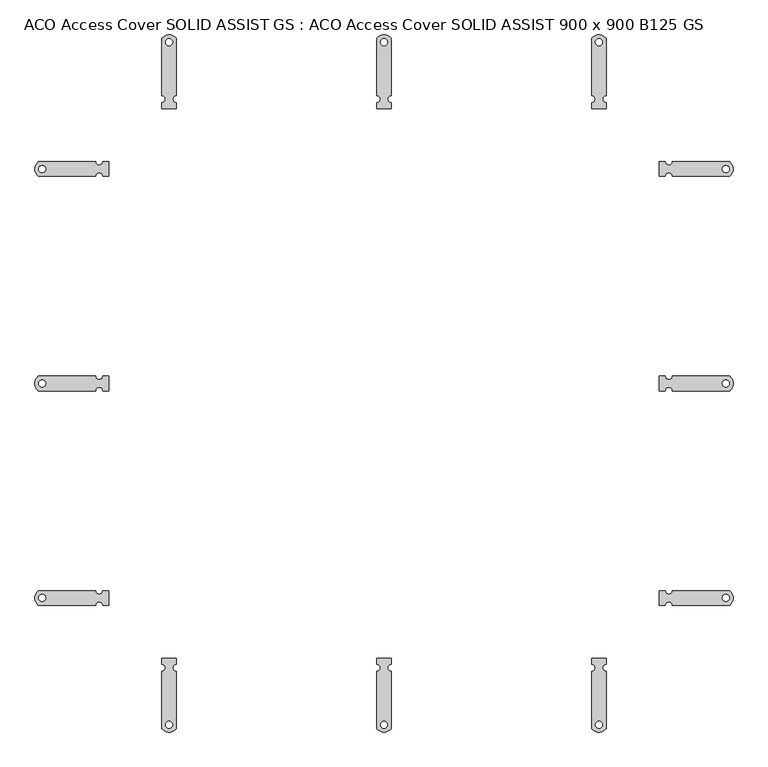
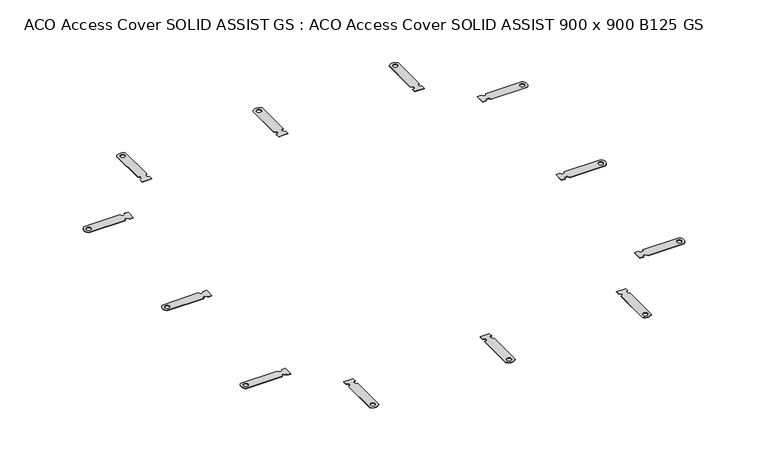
"""IFC4 building model written with IfcOpenShell, lengths in millimetres: proxy geometry, ACO Access Cover SOLID ASSIST GS : ACO Access Cover SOLID ASSIST 900 x 900 B125 GS."""

from ifc_helpers import new_model, si_unit, point, frame, frame_2d, origin, place, context, project, spatial, polyline, circle_curve, trimmed, segment, composite_curve, outline, extrude, source, transform, mapped, element, save


def aco_access_cover_solid_assist_gs_aco_access_cover_solid_a4386469(model_context):
    return source(origin(), model_context, "Body", "SweptSolid", [
        extrude(outline(composite_curve([segment(polyline([(-12.5, 492.5), (-12.5, 590.4874922)]), True, "CONTINUOUS"), segment(trimmed(circle_curve(frame_2d((0.0, 580.5)), 16.0), [point((-12.5, 590.4874922))], [point((12.5, 590.4874922))], False, "CARTESIAN"), True, "CONTINUOUS"), segment(polyline([(12.5, 590.4874922), (12.5, 492.5)]), True, "CONTINUOUS"), segment(trimmed(circle_curve(frame_2d((12.5, 486.5)), 6.0), [point((12.5, 492.5))], [point((12.5, 480.5))], True, "CARTESIAN"), True, "CONTINUOUS"), segment(polyline([(12.5, 480.5), (12.5, 470.5), (-12.5, 470.5), (-12.5, 480.5)]), True, "CONTINUOUS"), segment(trimmed(circle_curve(frame_2d((-12.5, 486.5)), 6.0), [point((-12.5, 480.5))], [point((-12.5, 492.5))], True, "CARTESIAN"), True, "CONTINUOUS")], self_intersect=False), holes=[composite_curve([segment(trimmed(circle_curve(frame_2d((0.0, 584.0)), 6.0), [point((-6.0, 584.0))], [point((6.0, 584.0))], True, "CARTESIAN"), True, "CONTINUOUS"), segment(trimmed(circle_curve(frame_2d((0.0, 584.0)), 6.0), [point((6.0, 584.0))], [point((-6.0, 584.0))], True, "CARTESIAN"), True, "CONTINUOUS")], self_intersect=False)]), frame((0.0, 0.0, -41.0), z_axis=(0.0, 0.0, 1.0), x_axis=(1.0, 0.0, 0.0)), (0.0, 0.0, 1.0), 1.0),
        extrude(outline(composite_curve([segment(trimmed(circle_curve(frame_2d((-12.5, -486.5)), 6.0), [point((-12.5, -492.5))], [point((-12.5, -480.5))], True, "CARTESIAN"), True, "CONTINUOUS"), segment(polyline([(-12.5, -480.5), (-12.5, -470.5), (12.5, -470.5), (12.5, -480.5)]), True, "CONTINUOUS"), segment(trimmed(circle_curve(frame_2d((12.5, -486.5)), 6.0), [point((12.5, -480.5))], [point((12.5, -492.5))], True, "CARTESIAN"), True, "CONTINUOUS"), segment(polyline([(12.5, -492.5), (12.5, -590.4874922)]), True, "CONTINUOUS"), segment(trimmed(circle_curve(frame_2d((0.0, -580.5)), 16.0), [point((12.5, -590.4874922))], [point((-12.5, -590.4874922))], False, "CARTESIAN"), True, "CONTINUOUS"), segment(polyline([(-12.5, -590.4874922), (-12.5, -492.5)]), True, "CONTINUOUS")], self_intersect=False), holes=[composite_curve([segment(trimmed(circle_curve(frame_2d((0.0, -584.0)), 6.0), [point((-6.0, -584.0))], [point((6.0, -584.0))], True, "CARTESIAN"), True, "CONTINUOUS"), segment(trimmed(circle_curve(frame_2d((0.0, -584.0)), 6.0), [point((6.0, -584.0))], [point((-6.0, -584.0))], True, "CARTESIAN"), True, "CONTINUOUS")], self_intersect=False)]), frame((0.0, 0.0, -41.0), z_axis=(0.0, 0.0, 1.0), x_axis=(1.0, 0.0, 0.0)), (0.0, 0.0, 1.0), 1.0),
        extrude(outline(composite_curve([segment(polyline([(471.0, 12.5), (481.0, 12.5)]), True, "CONTINUOUS"), segment(trimmed(circle_curve(frame_2d((487.0, 12.5)), 6.0), [point((481.0, 12.5))], [point((493.0, 12.5))], True, "CARTESIAN"), True, "CONTINUOUS"), segment(polyline([(493.0, 12.5), (590.9874922, 12.5)]), True, "CONTINUOUS"), segment(trimmed(circle_curve(frame_2d((581.0, 0.0)), 16.0), [point((590.9874922, 12.5))], [point((590.9874922, -12.5))], False, "CARTESIAN"), True, "CONTINUOUS"), segment(polyline([(590.9874922, -12.5), (493.0, -12.5)]), True, "CONTINUOUS"), segment(trimmed(circle_curve(frame_2d((487.0, -12.5)), 6.0), [point((493.0, -12.5))], [point((481.0, -12.5))], True, "CARTESIAN"), True, "CONTINUOUS"), segment(polyline([(481.0, -12.5), (471.0, -12.5), (471.0, 12.5)]), True, "CONTINUOUS")], self_intersect=False), holes=[composite_curve([segment(trimmed(circle_curve(frame_2d((584.5, 0.0)), 6.0), [point((578.5, 0.0))], [point((590.5, 0.0))], True, "CARTESIAN"), True, "CONTINUOUS"), segment(trimmed(circle_curve(frame_2d((584.5, 0.0)), 6.0), [point((590.5, 0.0))], [point((578.5, 0.0))], True, "CARTESIAN"), True, "CONTINUOUS")], self_intersect=False)]), frame((0.0, 0.0, -41.0), z_axis=(0.0, 0.0, 1.0), x_axis=(1.0, 0.0, 0.0)), (0.0, 0.0, 1.0), 1.0),
        extrude(outline(composite_curve([segment(polyline([(-471.0, 12.5), (-471.0, -12.5), (-481.0, -12.5)]), True, "CONTINUOUS"), segment(trimmed(circle_curve(frame_2d((-487.0, -12.5)), 6.0), [point((-481.0, -12.5))], [point((-493.0, -12.5))], True, "CARTESIAN"), True, "CONTINUOUS"), segment(polyline([(-493.0, -12.5), (-590.9874922, -12.5)]), True, "CONTINUOUS"), segment(trimmed(circle_curve(frame_2d((-581.0, 0.0)), 16.0), [point((-590.9874922, -12.5))], [point((-590.9874922, 12.5))], False, "CARTESIAN"), True, "CONTINUOUS"), segment(polyline([(-590.9874922, 12.5), (-493.0, 12.5)]), True, "CONTINUOUS"), segment(trimmed(circle_curve(frame_2d((-487.0, 12.5)), 6.0), [point((-493.0, 12.5))], [point((-481.0, 12.5))], True, "CARTESIAN"), True, "CONTINUOUS"), segment(polyline([(-481.0, 12.5), (-471.0, 12.5)]), True, "CONTINUOUS")], self_intersect=False), holes=[composite_curve([segment(trimmed(circle_curve(frame_2d((-584.5, 0.0)), 6.0), [point((-590.5, 0.0))], [point((-578.5, 0.0))], True, "CARTESIAN"), True, "CONTINUOUS"), segment(trimmed(circle_curve(frame_2d((-584.5, 0.0)), 6.0), [point((-578.5, 0.0))], [point((-590.5, 0.0))], True, "CARTESIAN"), True, "CONTINUOUS")], self_intersect=False)]), frame((0.0, 0.0, -41.0), z_axis=(0.0, 0.0, 1.0), x_axis=(1.0, 0.0, 0.0)), (0.0, 0.0, 1.0), 1.0),
        extrude(outline(composite_curve([segment(polyline([(471.0, 379.5), (481.0, 379.5)]), True, "CONTINUOUS"), segment(trimmed(circle_curve(frame_2d((487.0052893, 379.5)), 6.0052893), [point((481.0, 379.5))], [point((493.0105785, 379.5))], True, "CARTESIAN"), True, "CONTINUOUS"), segment(polyline([(493.0105785, 379.5), (590.9771339, 379.5)]), True, "CONTINUOUS"), segment(trimmed(circle_curve(frame_2d((581.0156688, 367.0)), 15.9837663), [point((590.9771339, 379.5))], [point((590.9771339, 354.5))], False, "CARTESIAN"), True, "CONTINUOUS"), segment(polyline([(590.9771339, 354.5), (493.023995, 354.5)]), True, "CONTINUOUS"), segment(trimmed(circle_curve(frame_2d((487.0319344, 354.5)), 5.9920606), [point((493.023995, 354.5))], [point((481.0398738, 354.5))], True, "CARTESIAN"), True, "CONTINUOUS"), segment(polyline([(481.0398738, 354.5), (471.0, 354.5), (471.0, 379.5)]), True, "CONTINUOUS")], self_intersect=False), holes=[composite_curve([segment(trimmed(circle_curve(frame_2d((584.5, 367.0)), 6.0), [point((578.5, 367.0))], [point((590.5, 367.0))], True, "CARTESIAN"), True, "CONTINUOUS"), segment(trimmed(circle_curve(frame_2d((584.5, 367.0)), 6.0), [point((590.5, 367.0))], [point((578.5, 367.0))], True, "CARTESIAN"), True, "CONTINUOUS")], self_intersect=False)]), frame((0.0, 0.0, -41.0), z_axis=(0.0, 0.0, 1.0), x_axis=(1.0, 0.0, 0.0)), (0.0, 0.0, 1.0), 1.0),
        extrude(outline(composite_curve([segment(polyline([(355.0, 470.5), (355.0, 480.5)]), True, "CONTINUOUS"), segment(trimmed(circle_curve(frame_2d((355.0, 486.5052893)), 6.0052893), [point((355.0, 480.5))], [point((355.0, 492.5105785))], True, "CARTESIAN"), True, "CONTINUOUS"), segment(polyline([(355.0, 492.5105785), (355.0, 590.4771339)]), True, "CONTINUOUS"), segment(trimmed(circle_curve(frame_2d((367.5, 580.5156688)), 15.9837663), [point((355.0, 590.4771339))], [point((380.0, 590.4771339))], False, "CARTESIAN"), True, "CONTINUOUS"), segment(polyline([(380.0, 590.4771339), (380.0, 492.523995)]), True, "CONTINUOUS"), segment(trimmed(circle_curve(frame_2d((380.0, 486.5319344)), 5.9920606), [point((380.0, 492.523995))], [point((380.0, 480.5398738))], True, "CARTESIAN"), True, "CONTINUOUS"), segment(polyline([(380.0, 480.5398738), (380.0, 470.5), (355.0, 470.5)]), True, "CONTINUOUS")], self_intersect=False), holes=[composite_curve([segment(trimmed(circle_curve(frame_2d((367.5, 584.0)), 6.0), [point((361.5, 584.0))], [point((373.5, 584.0))], True, "CARTESIAN"), True, "CONTINUOUS"), segment(trimmed(circle_curve(frame_2d((367.5, 584.0)), 6.0), [point((373.5, 584.0))], [point((361.5, 584.0))], True, "CARTESIAN"), True, "CONTINUOUS")], self_intersect=False)]), frame((0.0, 0.0, -41.0), z_axis=(0.0, 0.0, 1.0), x_axis=(1.0, 0.0, 0.0)), (0.0, 0.0, 1.0), 1.0),
        extrude(outline(composite_curve([segment(polyline([(471.0, -379.5), (471.0, -354.5), (481.0398738, -354.5)]), True, "CONTINUOUS"), segment(trimmed(circle_curve(frame_2d((487.0319344, -354.5)), 5.9920606), [point((481.0398738, -354.5))], [point((493.023995, -354.5))], True, "CARTESIAN"), True, "CONTINUOUS"), segment(polyline([(493.023995, -354.5), (590.9771339, -354.5)]), True, "CONTINUOUS"), segment(trimmed(circle_curve(frame_2d((581.0156688, -367.0)), 15.9837663), [point((590.9771339, -354.5))], [point((590.9771339, -379.5))], False, "CARTESIAN"), True, "CONTINUOUS"), segment(polyline([(590.9771339, -379.5), (493.0105785, -379.5)]), True, "CONTINUOUS"), segment(trimmed(circle_curve(frame_2d((487.0052893, -379.5)), 6.0052893), [point((493.0105785, -379.5))], [point((481.0, -379.5))], True, "CARTESIAN"), True, "CONTINUOUS"), segment(polyline([(481.0, -379.5), (471.0, -379.5)]), True, "CONTINUOUS")], self_intersect=False), holes=[composite_curve([segment(trimmed(circle_curve(frame_2d((584.5, -367.0)), 6.0), [point((578.5, -367.0))], [point((590.5, -367.0))], True, "CARTESIAN"), True, "CONTINUOUS"), segment(trimmed(circle_curve(frame_2d((584.5, -367.0)), 6.0), [point((590.5, -367.0))], [point((578.5, -367.0))], True, "CARTESIAN"), True, "CONTINUOUS")], self_intersect=False)]), frame((0.0, 0.0, -41.0), z_axis=(0.0, 0.0, 1.0), x_axis=(1.0, 0.0, 0.0)), (0.0, 0.0, 1.0), 1.0),
        extrude(outline(composite_curve([segment(polyline([(-471.0, 379.5), (-471.0, 354.5), (-481.0398738, 354.5)]), True, "CONTINUOUS"), segment(trimmed(circle_curve(frame_2d((-487.0319344, 354.5)), 5.9920606), [point((-481.0398738, 354.5))], [point((-493.023995, 354.5))], True, "CARTESIAN"), True, "CONTINUOUS"), segment(polyline([(-493.023995, 354.5), (-590.9771339, 354.5)]), True, "CONTINUOUS"), segment(trimmed(circle_curve(frame_2d((-581.0156688, 367.0)), 15.9837663), [point((-590.9771339, 354.5))], [point((-590.9771339, 379.5))], False, "CARTESIAN"), True, "CONTINUOUS"), segment(polyline([(-590.9771339, 379.5), (-493.0105785, 379.5)]), True, "CONTINUOUS"), segment(trimmed(circle_curve(frame_2d((-487.0052893, 379.5)), 6.0052893), [point((-493.0105785, 379.5))], [point((-481.0, 379.5))], True, "CARTESIAN"), True, "CONTINUOUS"), segment(polyline([(-481.0, 379.5), (-471.0, 379.5)]), True, "CONTINUOUS")], self_intersect=False), holes=[composite_curve([segment(trimmed(circle_curve(frame_2d((-584.5, 367.0)), 6.0), [point((-590.5, 367.0))], [point((-578.5, 367.0))], True, "CARTESIAN"), True, "CONTINUOUS"), segment(trimmed(circle_curve(frame_2d((-584.5, 367.0)), 6.0), [point((-578.5, 367.0))], [point((-590.5, 367.0))], True, "CARTESIAN"), True, "CONTINUOUS")], self_intersect=False)]), frame((0.0, 0.0, -41.0), z_axis=(0.0, 0.0, 1.0), x_axis=(1.0, 0.0, 0.0)), (0.0, 0.0, 1.0), 1.0),
        extrude(outline(composite_curve([segment(polyline([(-355.0, 470.5), (-380.0, 470.5), (-380.0, 480.5398738)]), True, "CONTINUOUS"), segment(trimmed(circle_curve(frame_2d((-380.0, 486.5319344)), 5.9920606), [point((-380.0, 480.5398738))], [point((-380.0, 492.523995))], True, "CARTESIAN"), True, "CONTINUOUS"), segment(polyline([(-380.0, 492.523995), (-380.0, 590.4771339)]), True, "CONTINUOUS"), segment(trimmed(circle_curve(frame_2d((-367.5, 580.5156688)), 15.9837663), [point((-380.0, 590.4771339))], [point((-355.0, 590.4771339))], False, "CARTESIAN"), True, "CONTINUOUS"), segment(polyline([(-355.0, 590.4771339), (-355.0, 492.5105785)]), True, "CONTINUOUS"), segment(trimmed(circle_curve(frame_2d((-355.0, 486.5052893)), 6.0052893), [point((-355.0, 492.5105785))], [point((-355.0, 480.5))], True, "CARTESIAN"), True, "CONTINUOUS"), segment(polyline([(-355.0, 480.5), (-355.0, 470.5)]), True, "CONTINUOUS")], self_intersect=False), holes=[composite_curve([segment(trimmed(circle_curve(frame_2d((-367.5, 584.0)), 6.0), [point((-373.5, 584.0))], [point((-361.5, 584.0))], True, "CARTESIAN"), True, "CONTINUOUS"), segment(trimmed(circle_curve(frame_2d((-367.5, 584.0)), 6.0), [point((-361.5, 584.0))], [point((-373.5, 584.0))], True, "CARTESIAN"), True, "CONTINUOUS")], self_intersect=False)]), frame((0.0, 0.0, -41.0), z_axis=(0.0, 0.0, 1.0), x_axis=(1.0, 0.0, 0.0)), (0.0, 0.0, 1.0), 1.0),
        extrude(outline(composite_curve([segment(polyline([(-471.0, -379.5), (-481.0, -379.5)]), True, "CONTINUOUS"), segment(trimmed(circle_curve(frame_2d((-487.0052893, -379.5)), 6.0052893), [point((-481.0, -379.5))], [point((-493.0105785, -379.5))], True, "CARTESIAN"), True, "CONTINUOUS"), segment(polyline([(-493.0105785, -379.5), (-590.9771339, -379.5)]), True, "CONTINUOUS"), segment(trimmed(circle_curve(frame_2d((-581.0156688, -367.0)), 15.9837663), [point((-590.9771339, -379.5))], [point((-590.9771339, -354.5))], False, "CARTESIAN"), True, "CONTINUOUS"), segment(polyline([(-590.9771339, -354.5), (-493.023995, -354.5)]), True, "CONTINUOUS"), segment(trimmed(circle_curve(frame_2d((-487.0319344, -354.5)), 5.9920606), [point((-493.023995, -354.5))], [point((-481.0398738, -354.5))], True, "CARTESIAN"), True, "CONTINUOUS"), segment(polyline([(-481.0398738, -354.5), (-471.0, -354.5), (-471.0, -379.5)]), True, "CONTINUOUS")], self_intersect=False), holes=[composite_curve([segment(trimmed(circle_curve(frame_2d((-584.5, -367.0)), 6.0), [point((-590.5, -367.0))], [point((-578.5, -367.0))], True, "CARTESIAN"), True, "CONTINUOUS"), segment(trimmed(circle_curve(frame_2d((-584.5, -367.0)), 6.0), [point((-578.5, -367.0))], [point((-590.5, -367.0))], True, "CARTESIAN"), True, "CONTINUOUS")], self_intersect=False)]), frame((0.0, 0.0, -41.0), z_axis=(0.0, 0.0, 1.0), x_axis=(1.0, 0.0, 0.0)), (0.0, 0.0, 1.0), 1.0),
        extrude(outline(composite_curve([segment(polyline([(355.0, -470.5), (380.0, -470.5), (380.0, -480.5398738)]), True, "CONTINUOUS"), segment(trimmed(circle_curve(frame_2d((380.0, -486.5319344)), 5.9920606), [point((380.0, -480.5398738))], [point((380.0, -492.523995))], True, "CARTESIAN"), True, "CONTINUOUS"), segment(polyline([(380.0, -492.523995), (380.0, -590.4771339)]), True, "CONTINUOUS"), segment(trimmed(circle_curve(frame_2d((367.5, -580.5156688)), 15.9837663), [point((380.0, -590.4771339))], [point((355.0, -590.4771339))], False, "CARTESIAN"), True, "CONTINUOUS"), segment(polyline([(355.0, -590.4771339), (355.0, -492.5105785)]), True, "CONTINUOUS"), segment(trimmed(circle_curve(frame_2d((355.0, -486.5052893)), 6.0052893), [point((355.0, -492.5105785))], [point((355.0, -480.5))], True, "CARTESIAN"), True, "CONTINUOUS"), segment(polyline([(355.0, -480.5), (355.0, -470.5)]), True, "CONTINUOUS")], self_intersect=False), holes=[composite_curve([segment(trimmed(circle_curve(frame_2d((367.5, -584.0)), 6.0), [point((361.5, -584.0))], [point((373.5, -584.0))], True, "CARTESIAN"), True, "CONTINUOUS"), segment(trimmed(circle_curve(frame_2d((367.5, -584.0)), 6.0), [point((373.5, -584.0))], [point((361.5, -584.0))], True, "CARTESIAN"), True, "CONTINUOUS")], self_intersect=False)]), frame((0.0, 0.0, -41.0), z_axis=(0.0, 0.0, 1.0), x_axis=(1.0, 0.0, 0.0)), (0.0, 0.0, 1.0), 1.0),
        extrude(outline(composite_curve([segment(polyline([(-355.0, -470.5), (-355.0, -480.5)]), True, "CONTINUOUS"), segment(trimmed(circle_curve(frame_2d((-355.0, -486.5052893)), 6.0052893), [point((-355.0, -480.5))], [point((-355.0, -492.5105785))], True, "CARTESIAN"), True, "CONTINUOUS"), segment(polyline([(-355.0, -492.5105785), (-355.0, -590.4771339)]), True, "CONTINUOUS"), segment(trimmed(circle_curve(frame_2d((-367.5, -580.5156688)), 15.9837663), [point((-355.0, -590.4771339))], [point((-380.0, -590.4771339))], False, "CARTESIAN"), True, "CONTINUOUS"), segment(polyline([(-380.0, -590.4771339), (-380.0, -492.523995)]), True, "CONTINUOUS"), segment(trimmed(circle_curve(frame_2d((-380.0, -486.5319344)), 5.9920606), [point((-380.0, -492.523995))], [point((-380.0, -480.5398738))], True, "CARTESIAN"), True, "CONTINUOUS"), segment(polyline([(-380.0, -480.5398738), (-380.0, -470.5), (-355.0, -470.5)]), True, "CONTINUOUS")], self_intersect=False), holes=[composite_curve([segment(trimmed(circle_curve(frame_2d((-367.5, -584.0)), 6.0), [point((-373.5, -584.0))], [point((-361.5, -584.0))], True, "CARTESIAN"), True, "CONTINUOUS"), segment(trimmed(circle_curve(frame_2d((-367.5, -584.0)), 6.0), [point((-361.5, -584.0))], [point((-373.5, -584.0))], True, "CARTESIAN"), True, "CONTINUOUS")], self_intersect=False)]), frame((0.0, 0.0, -41.0), z_axis=(0.0, 0.0, 1.0), x_axis=(1.0, 0.0, 0.0)), (0.0, 0.0, 1.0), 1.0),
    ])


if __name__ == "__main__":
    model = new_model("IFC4")
    model_context = context("Model", 3, world=origin())
    ifc_project = project(units=[si_unit("LENGTHUNIT", "METRE", prefix="MILLI")], contexts=[model_context])
    site = spatial("IfcSite", under=ifc_project)
    building = spatial("IfcBuilding", under=site)
    placement = place(None, origin())
    aco_access_cover_solid_assist_gs_aco_access_cover_solid_shape = aco_access_cover_solid_assist_gs_aco_access_cover_solid_a4386469(model_context)
    element("IfcBuildingElementProxy", 1, Name="ACO Access Cover SOLID ASSIST GS : ACO Access Cover SOLID ASSIST 900 x 900 B125 GS", ObjectType="ACO Access Cover SOLID ASSIST GS : ACO Access Cover SOLID ASSIST 900 x 900 B125 GS", at=placement, inside=building, context=model_context, shape_type="MappedRepresentation", body=[
        mapped(aco_access_cover_solid_assist_gs_aco_access_cover_solid_shape, transform((0.0, 0.0, 0.0), x_axis=(1.0, 0.0, 0.0), y_axis=(0.0, 1.0, 0.0), z_axis=(0.0, 0.0, 1.0))),
    ])
    save(model, "model.ifc")
